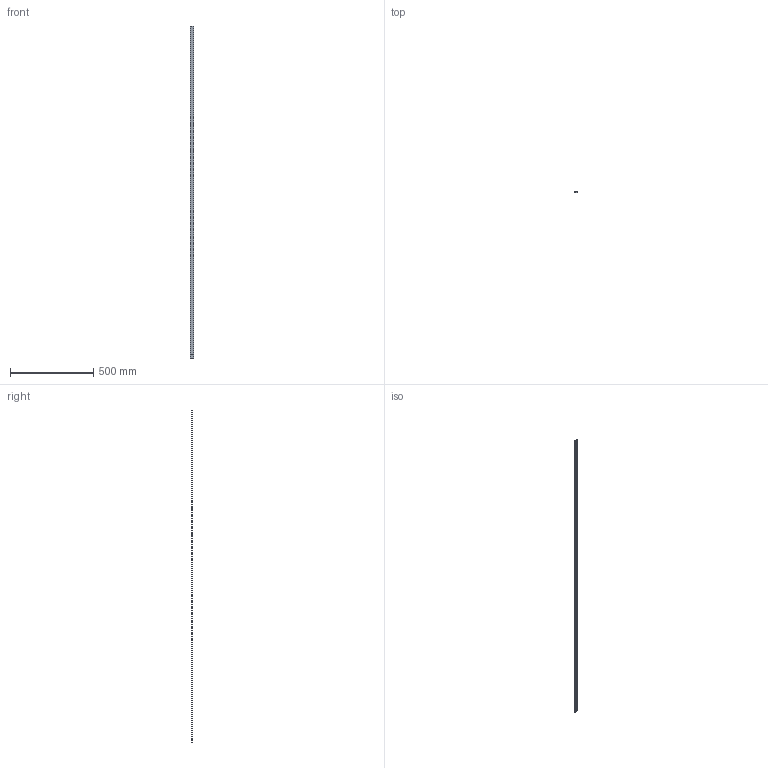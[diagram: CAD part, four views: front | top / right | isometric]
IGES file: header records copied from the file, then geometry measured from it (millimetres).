
Start section: SolidWorks IGES file using analytic representation for surfaces
Global section: file name: D:\CERAR\Dokumenti\DOKUMENTACIJA-mehanskih-delov-RLSizdelkov-\LM10\Profili-za-MS10B-track-scale-system-dokumentacija\SWelements-ANG\Profile-TRS200A00.IGS; native system: SolidWorks 2013; preprocessor: SolidWorks 2013; author: cerar; date: 151127.114140; units: millimetre
Bounding box: 20 x 4 x 2000 mm (x, y, z)
Surface area: 94645 mm2 (no closed solid volume)
Topology: 0 solids, 0 shells, 43 faces, 428 edges, 428 vertices
Faces by surface type: bspline 25, revolution 18
